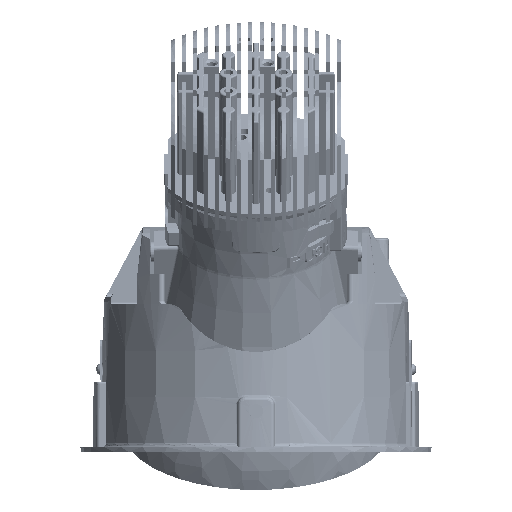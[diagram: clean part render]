
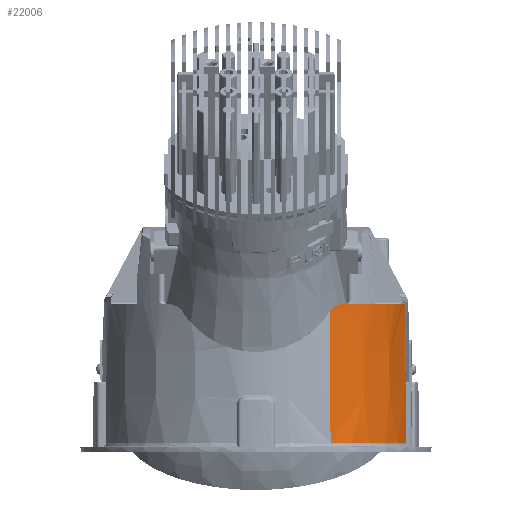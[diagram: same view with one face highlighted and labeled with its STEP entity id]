
A CAD part, front view. The second image highlights one B-rep face of the part: STEP entity #22006.
In plain terms, the highlighted conical face has half-angle 0.5 degrees and reference radius 42.325 mm.
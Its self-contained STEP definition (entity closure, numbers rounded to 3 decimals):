
#19703=CARTESIAN_POINT('Vertex',(25.25,-33.762,39.)) ;
#20105=CARTESIAN_POINT('Vertex',(23.643,-34.906,39.)) ;
#20109=CARTESIAN_POINT('Control Point',(25.25,-33.762,39.)) ;
#20110=CARTESIAN_POINT('Control Point',(24.934,-33.998,39.)) ;
#20111=CARTESIAN_POINT('Control Point',(24.615,-34.231,39.)) ;
#20112=CARTESIAN_POINT('Control Point',(24.294,-34.46,39.)) ;
#20113=CARTESIAN_POINT('Control Point',(23.97,-34.685,39.)) ;
#20114=CARTESIAN_POINT('Control Point',(23.643,-34.906,39.)) ;
#20132=CARTESIAN_POINT('Vertex',(30.286,-29.329,39.)) ;
#20157=CARTESIAN_POINT('Axis2P3D Location',(0.,0.,39.)) ;
#20161=CARTESIAN_POINT('Vertex',(26.632,-32.683,39.)) ;
#20164=CARTESIAN_POINT('Axis2P3D Location',(0.,0.,39.)) ;
#21684=CARTESIAN_POINT('Vertex',(20.266,-36.988,37.143)) ;
#21688=CARTESIAN_POINT('Control Point',(23.643,-34.906,39.)) ;
#21689=CARTESIAN_POINT('Control Point',(23.354,-35.102,39.)) ;
#21690=CARTESIAN_POINT('Control Point',(23.066,-35.293,38.974)) ;
#21691=CARTESIAN_POINT('Control Point',(22.781,-35.478,38.922)) ;
#21692=CARTESIAN_POINT('Control Point',(22.227,-35.83,38.768)) ;
#21693=CARTESIAN_POINT('Control Point',(21.707,-36.148,38.518)) ;
#21694=CARTESIAN_POINT('Control Point',(21.467,-36.293,38.375)) ;
#21695=CARTESIAN_POINT('Control Point',(21.047,-36.542,38.07)) ;
#21696=CARTESIAN_POINT('Control Point',(20.681,-36.753,37.703)) ;
#21697=CARTESIAN_POINT('Control Point',(20.528,-36.84,37.525)) ;
#21698=CARTESIAN_POINT('Control Point',(20.39,-36.918,37.338)) ;
#21699=CARTESIAN_POINT('Control Point',(20.266,-36.988,37.143)) ;
#21888=CARTESIAN_POINT('Axis2P3D Location',(0.,0.,19.996)) ;
#21894=CARTESIAN_POINT('Control Point',(20.22,-37.013,37.072)) ;
#21895=CARTESIAN_POINT('Control Point',(20.236,-37.005,37.096)) ;
#21896=CARTESIAN_POINT('Control Point',(20.251,-36.996,37.119)) ;
#21897=CARTESIAN_POINT('Control Point',(20.266,-36.988,37.143)) ;
#21898=CARTESIAN_POINT('Vertex',(20.22,-37.013,37.072)) ;
#21901=CARTESIAN_POINT('Line Origine',(2102.008,-3847.7,-497535.955)) ;
#21905=CARTESIAN_POINT('Vertex',(20.371,-37.29,0.991)) ;
#21908=CARTESIAN_POINT('Axis2P3D Location',(0.,0.,0.991)) ;
#21912=CARTESIAN_POINT('Vertex',(40.963,-11.293,0.991)) ;
#21916=CARTESIAN_POINT('Control Point',(40.963,-11.293,0.991)) ;
#21917=CARTESIAN_POINT('Control Point',(40.94,-11.198,6.43)) ;
#21918=CARTESIAN_POINT('Control Point',(40.917,-11.104,11.87)) ;
#21919=CARTESIAN_POINT('Control Point',(40.893,-11.009,17.309)) ;
#21920=CARTESIAN_POINT('Vertex',(40.893,-11.009,17.309)) ;
#21924=CARTESIAN_POINT('Control Point',(40.893,-11.009,17.309)) ;
#21925=CARTESIAN_POINT('Control Point',(40.893,-11.008,17.348)) ;
#21926=CARTESIAN_POINT('Control Point',(40.894,-11.002,17.387)) ;
#21927=CARTESIAN_POINT('Control Point',(40.896,-10.993,17.423)) ;
#21928=CARTESIAN_POINT('Vertex',(40.896,-10.993,17.423)) ;
#21932=CARTESIAN_POINT('Control Point',(40.896,-10.993,17.423)) ;
#21933=CARTESIAN_POINT('Control Point',(40.894,-10.996,17.548)) ;
#21934=CARTESIAN_POINT('Control Point',(40.893,-10.998,17.674)) ;
#21935=CARTESIAN_POINT('Control Point',(40.891,-11.,17.8)) ;
#21936=CARTESIAN_POINT('Vertex',(40.891,-11.,17.8)) ;
#21940=CARTESIAN_POINT('Control Point',(40.891,-11.,17.8)) ;
#21941=CARTESIAN_POINT('Control Point',(40.794,-11.124,24.884)) ;
#21942=CARTESIAN_POINT('Control Point',(40.696,-11.247,31.951)) ;
#21943=CARTESIAN_POINT('Control Point',(40.598,-11.37,39.)) ;
#21944=CARTESIAN_POINT('Vertex',(40.598,-11.37,39.)) ;
#21947=CARTESIAN_POINT('Axis2P3D Location',(0.,0.,39.)) ;
#21951=CARTESIAN_POINT('Vertex',(40.416,-12.,39.)) ;
#21954=CARTESIAN_POINT('Axis2P3D Location',(0.,0.,39.)) ;
#21958=CARTESIAN_POINT('Vertex',(39.767,-14.,39.)) ;
#21961=CARTESIAN_POINT('Axis2P3D Location',(0.,0.,39.)) ;
#21965=CARTESIAN_POINT('Vertex',(39.588,-14.5,39.)) ;
#21968=CARTESIAN_POINT('Axis2P3D Location',(0.,0.,39.)) ;
#21972=CARTESIAN_POINT('Vertex',(32.979,-26.265,39.)) ;
#21975=CARTESIAN_POINT('Axis2P3D Location',(0.,0.,39.)) ;
#21979=CARTESIAN_POINT('Vertex',(32.574,-26.765,39.)) ;
#21982=CARTESIAN_POINT('Axis2P3D Location',(0.,0.,39.)) ;
#20158=DIRECTION('Axis2P3D Direction',(0.,0.,1.)) ;
#20165=DIRECTION('Axis2P3D Direction',(0.,0.,1.)) ;
#21889=DIRECTION('Axis2P3D Direction',(0.,0.,-1.)) ;
#21890=DIRECTION('Axis2P3D XDirection',(-0.479,0.878,0.)) ;
#21902=DIRECTION('Vector Direction',(0.004,-0.008,-1.)) ;
#21909=DIRECTION('Axis2P3D Direction',(0.,0.,-1.)) ;
#21948=DIRECTION('Axis2P3D Direction',(0.,0.,-1.)) ;
#21955=DIRECTION('Axis2P3D Direction',(0.,0.,-1.)) ;
#21962=DIRECTION('Axis2P3D Direction',(0.,0.,-1.)) ;
#21969=DIRECTION('Axis2P3D Direction',(0.,0.,-1.)) ;
#21976=DIRECTION('Axis2P3D Direction',(0.,0.,-1.)) ;
#21983=DIRECTION('Axis2P3D Direction',(0.,0.,-1.)) ;
#20159=AXIS2_PLACEMENT_3D('Circle Axis2P3D',#20157,#20158,$) ;
#20166=AXIS2_PLACEMENT_3D('Circle Axis2P3D',#20164,#20165,$) ;
#21891=AXIS2_PLACEMENT_3D('Cone Axis2P3D',#21888,#21889,#21890) ;
#21910=AXIS2_PLACEMENT_3D('Circle Axis2P3D',#21908,#21909,$) ;
#21949=AXIS2_PLACEMENT_3D('Circle Axis2P3D',#21947,#21948,$) ;
#21956=AXIS2_PLACEMENT_3D('Circle Axis2P3D',#21954,#21955,$) ;
#21963=AXIS2_PLACEMENT_3D('Circle Axis2P3D',#21961,#21962,$) ;
#21970=AXIS2_PLACEMENT_3D('Circle Axis2P3D',#21968,#21969,$) ;
#21977=AXIS2_PLACEMENT_3D('Circle Axis2P3D',#21975,#21976,$) ;
#21984=AXIS2_PLACEMENT_3D('Circle Axis2P3D',#21982,#21983,$) ;
#21988=ORIENTED_EDGE('',*,*,#21900,.F.) ;
#21989=ORIENTED_EDGE('',*,*,#21907,.T.) ;
#21990=ORIENTED_EDGE('',*,*,#21914,.F.) ;
#21991=ORIENTED_EDGE('',*,*,#21922,.T.) ;
#21992=ORIENTED_EDGE('',*,*,#21930,.T.) ;
#21993=ORIENTED_EDGE('',*,*,#21938,.T.) ;
#21994=ORIENTED_EDGE('',*,*,#21946,.T.) ;
#21995=ORIENTED_EDGE('',*,*,#21953,.T.) ;
#21996=ORIENTED_EDGE('',*,*,#21960,.T.) ;
#21997=ORIENTED_EDGE('',*,*,#21967,.F.) ;
#21998=ORIENTED_EDGE('',*,*,#21974,.T.) ;
#21999=ORIENTED_EDGE('',*,*,#21981,.F.) ;
#22000=ORIENTED_EDGE('',*,*,#21986,.T.) ;
#22001=ORIENTED_EDGE('',*,*,#20168,.T.) ;
#22002=ORIENTED_EDGE('',*,*,#20163,.F.) ;
#22003=ORIENTED_EDGE('',*,*,#20115,.T.) ;
#22004=ORIENTED_EDGE('',*,*,#21700,.T.) ;
#21903=VECTOR('Line Direction',#21902,1.) ;
#22006=ADVANCED_FACE('X.RP1CK.1\\225\\213\\186\\180\\MANIFOLD_SOLID_BREP #15142',(#22005),#21892,.T.) ;
#20108=B_SPLINE_CURVE_WITH_KNOTS('',5,(#20109,#20110,#20111,#20112,#20113,#20114),.UNSPECIFIED.,.F.,.U.,(6,6),(0.,2.79),.UNSPECIFIED.) ;
#21687=B_SPLINE_CURVE_WITH_KNOTS('',5,(#21688,#21689,#21690,#21691,#21692,#21693,#21694,#21695,#21696,#21697,#21698,#21699),.UNSPECIFIED.,.F.,.U.,(6,3,3,6),(0.,2.314,4.595,6.453),.UNSPECIFIED.) ;
#21893=B_SPLINE_CURVE_WITH_KNOTS('',3,(#21894,#21895,#21896,#21897),.UNSPECIFIED.,.F.,.U.,(4,4),(0.,0.167),.UNSPECIFIED.) ;
#21915=B_SPLINE_CURVE_WITH_KNOTS('',3,(#21916,#21917,#21918,#21919),.UNSPECIFIED.,.F.,.U.,(4,4),(0.,23.087),.UNSPECIFIED.) ;
#21923=B_SPLINE_CURVE_WITH_KNOTS('',3,(#21924,#21925,#21926,#21927),.UNSPECIFIED.,.F.,.U.,(4,4),(0.,0.166),.UNSPECIFIED.) ;
#21931=B_SPLINE_CURVE_WITH_KNOTS('',3,(#21932,#21933,#21934,#21935),.UNSPECIFIED.,.F.,.U.,(4,4),(0.,0.534),.UNSPECIFIED.) ;
#21939=B_SPLINE_CURVE_WITH_KNOTS('',3,(#21940,#21941,#21942,#21943),.UNSPECIFIED.,.F.,.U.,(4,4),(0.,30.003),.UNSPECIFIED.) ;
#20160=CIRCLE('generated circle',#20159,42.16) ;
#20167=CIRCLE('generated circle',#20166,42.16) ;
#21911=CIRCLE('generated circle',#21910,42.491) ;
#21950=CIRCLE('generated circle',#21949,42.16) ;
#21957=CIRCLE('generated circle',#21956,42.16) ;
#21964=CIRCLE('generated circle',#21963,42.16) ;
#21971=CIRCLE('generated circle',#21970,42.16) ;
#21978=CIRCLE('generated circle',#21977,42.16) ;
#21985=CIRCLE('generated circle',#21984,42.16) ;
#21892=CONICAL_SURFACE('Cone',#21891,42.326,0.009) ;
#20115=EDGE_CURVE('',#19704,#20106,#20108,.T.) ;
#20163=EDGE_CURVE('',#19704,#20162,#20160,.T.) ;
#20168=EDGE_CURVE('',#20133,#20162,#20167,.F.) ;
#21700=EDGE_CURVE('',#20106,#21685,#21687,.T.) ;
#21900=EDGE_CURVE('',#21899,#21685,#21893,.T.) ;
#21907=EDGE_CURVE('',#21899,#21906,#21904,.T.) ;
#21914=EDGE_CURVE('',#21913,#21906,#21911,.T.) ;
#21922=EDGE_CURVE('',#21913,#21921,#21915,.T.) ;
#21930=EDGE_CURVE('',#21921,#21929,#21923,.T.) ;
#21938=EDGE_CURVE('',#21929,#21937,#21931,.T.) ;
#21946=EDGE_CURVE('',#21937,#21945,#21939,.T.) ;
#21953=EDGE_CURVE('',#21945,#21952,#21950,.T.) ;
#21960=EDGE_CURVE('',#21952,#21959,#21957,.T.) ;
#21967=EDGE_CURVE('',#21966,#21959,#21964,.F.) ;
#21974=EDGE_CURVE('',#21966,#21973,#21971,.T.) ;
#21981=EDGE_CURVE('',#21980,#21973,#21978,.F.) ;
#21986=EDGE_CURVE('',#21980,#20133,#21985,.T.) ;
#21987=EDGE_LOOP('',(#21988,#21989,#21990,#21991,#21992,#21993,#21994,#21995,#21996,#21997,#21998,#21999,#22000,#22001,#22002,#22003,#22004)) ;
#22005=FACE_OUTER_BOUND('',#21987,.T.) ;
#21904=LINE('Line',#21901,#21903) ;
#19704=VERTEX_POINT('',#19703) ;
#20106=VERTEX_POINT('',#20105) ;
#20133=VERTEX_POINT('',#20132) ;
#20162=VERTEX_POINT('',#20161) ;
#21685=VERTEX_POINT('',#21684) ;
#21899=VERTEX_POINT('',#21898) ;
#21906=VERTEX_POINT('',#21905) ;
#21913=VERTEX_POINT('',#21912) ;
#21921=VERTEX_POINT('',#21920) ;
#21929=VERTEX_POINT('',#21928) ;
#21937=VERTEX_POINT('',#21936) ;
#21945=VERTEX_POINT('',#21944) ;
#21952=VERTEX_POINT('',#21951) ;
#21959=VERTEX_POINT('',#21958) ;
#21966=VERTEX_POINT('',#21965) ;
#21973=VERTEX_POINT('',#21972) ;
#21980=VERTEX_POINT('',#21979) ;
